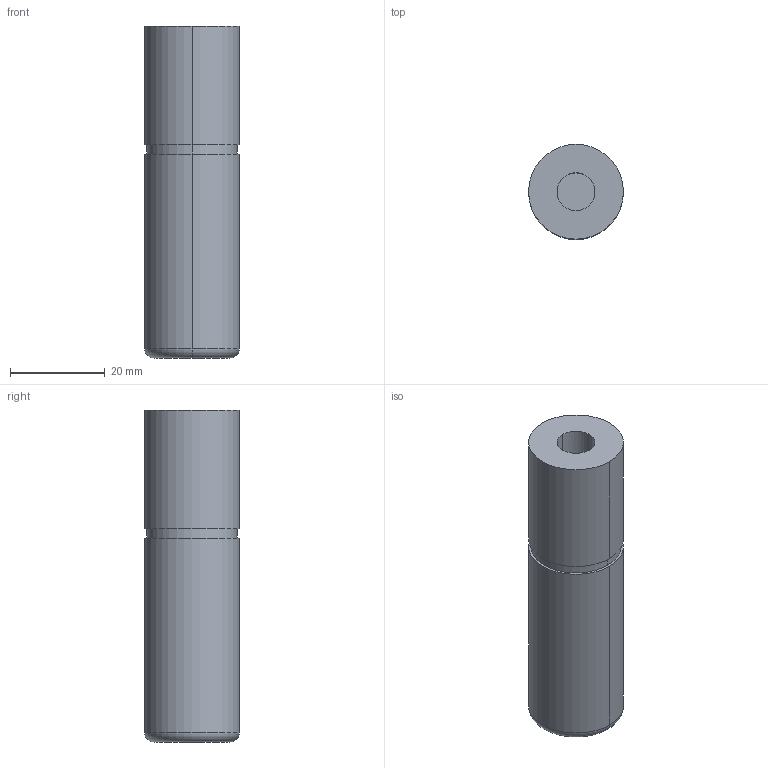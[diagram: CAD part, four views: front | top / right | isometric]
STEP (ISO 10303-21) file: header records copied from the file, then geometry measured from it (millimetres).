
FILE_DESCRIPTION(/* description */ (''),/* implementation_level */ '2;1');
FILE_NAME(/* name */ '3d_sgpn20-70_00282_r00.stp',/* time_stamp */ '2011-01-10T14:11:07+09:00',/* author */ ('MISUMI'),/* organization */ (''),/* preprocessor_version */ 'ST-DEVELOPER v11',/* originating_system */ 'UGS - NX 5.0',/* authorisation */ '');
FILE_SCHEMA (('CONFIG_CONTROL_DESIGN'));
Length unit declared in the file: millimetre
Products named in the file (1): 3d_sgpn20-70_00282_r00
Bounding box: 20 x 20 x 70 mm (x, y, z)
Volume: 20873.1 mm3; surface area: 5528.5 mm2
Topology: 1 solids, 1 shells, 15 faces, 28 edges, 18 vertices
Faces by surface type: cylinder 8, plane 5, torus 2
Entity records: 472 total; most frequent: DIRECTION 80, CARTESIAN_POINT 62, ORIENTED_EDGE 56, AXIS2_PLACEMENT_3D 36, EDGE_CURVE 28, CIRCLE 20, EDGE_LOOP 18, VERTEX_POINT 18
